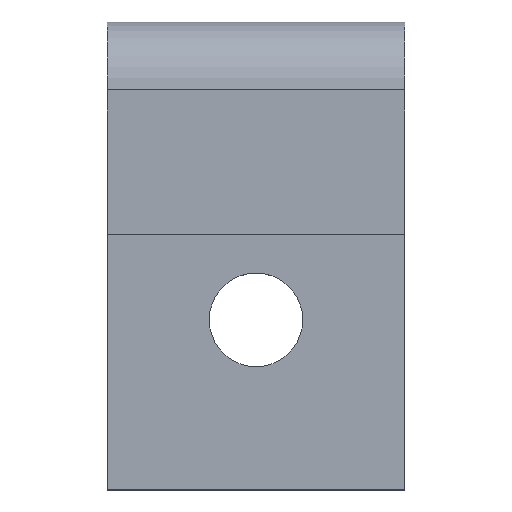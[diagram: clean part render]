
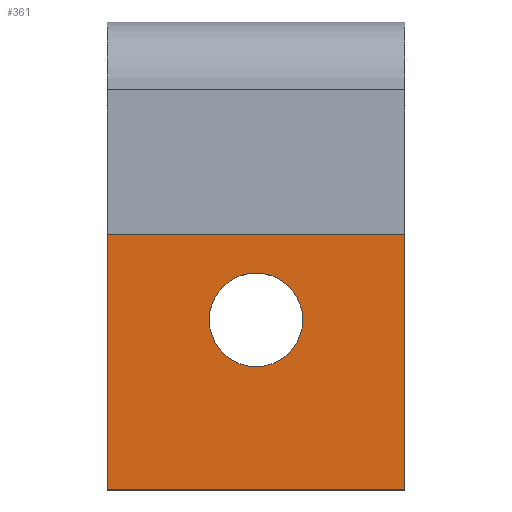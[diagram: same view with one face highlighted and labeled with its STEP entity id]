
A CAD part, top view. The second image highlights one B-rep face of the part: STEP entity #361.
In plain terms, the highlighted planar face has unit normal (0, 0, 1).
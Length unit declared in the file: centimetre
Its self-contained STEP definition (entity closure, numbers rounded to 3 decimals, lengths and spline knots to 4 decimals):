
#16=FACE_BOUND('',#82,.T.);
#34=PLANE('',#408);
#57=FACE_OUTER_BOUND('',#81,.T.);
#81=EDGE_LOOP('',(#329,#330,#331,#332));
#82=EDGE_LOOP('',(#333));
#111=LINE('',#592,#148);
#114=LINE('',#599,#151);
#117=LINE('',#606,#154);
#119=LINE('',#609,#156);
#148=VECTOR('',#493,1.);
#151=VECTOR('',#500,1.);
#154=VECTOR('',#507,1.);
#156=VECTOR('',#511,1.);
#158=CIRCLE('',#378,0.11);
#168=VERTEX_POINT('',#518);
#187=VERTEX_POINT('',#582);
#188=VERTEX_POINT('',#586);
#190=VERTEX_POINT('',#597);
#192=VERTEX_POINT('',#605);
#195=EDGE_CURVE('',#168,#168,#158,.T.);
#231=EDGE_CURVE('',#187,#188,#111,.T.);
#234=EDGE_CURVE('',#188,#190,#114,.T.);
#237=EDGE_CURVE('',#192,#187,#117,.T.);
#239=EDGE_CURVE('',#190,#192,#119,.T.);
#329=ORIENTED_EDGE('',*,*,#231,.T.);
#330=ORIENTED_EDGE('',*,*,#234,.T.);
#331=ORIENTED_EDGE('',*,*,#239,.T.);
#332=ORIENTED_EDGE('',*,*,#237,.T.);
#333=ORIENTED_EDGE('',*,*,#195,.T.);
#361=ADVANCED_FACE('',(#57,#16),#34,.T.);
#378=AXIS2_PLACEMENT_3D('',#520,#416,#417);
#408=AXIS2_PLACEMENT_3D('',#610,#512,#513);
#416=DIRECTION('center_axis',(0.,0.,-1.));
#417=DIRECTION('ref_axis',(1.,0.,0.));
#493=DIRECTION('',(-1.,0.,0.));
#500=DIRECTION('',(0.,-1.,0.));
#507=DIRECTION('',(0.,1.,0.));
#511=DIRECTION('',(1.,0.,0.));
#512=DIRECTION('center_axis',(0.,0.,1.));
#513=DIRECTION('ref_axis',(1.,0.,0.));
#518=CARTESIAN_POINT('',(-0.11,-0.25,0.08));
#520=CARTESIAN_POINT('Origin',(0.,-0.25,0.08));
#582=CARTESIAN_POINT('',(0.35,0.29,0.08));
#586=CARTESIAN_POINT('',(-0.35,0.29,0.08));
#592=CARTESIAN_POINT('',(0.175,0.29,0.08));
#597=CARTESIAN_POINT('',(-0.35,-0.65,0.08));
#599=CARTESIAN_POINT('',(-0.35,0.45,0.08));
#605=CARTESIAN_POINT('',(0.35,-0.65,0.08));
#606=CARTESIAN_POINT('',(0.35,-0.65,0.08));
#609=CARTESIAN_POINT('',(-0.35,-0.65,0.08));
#610=CARTESIAN_POINT('Origin',(0.,-0.1,0.08));
